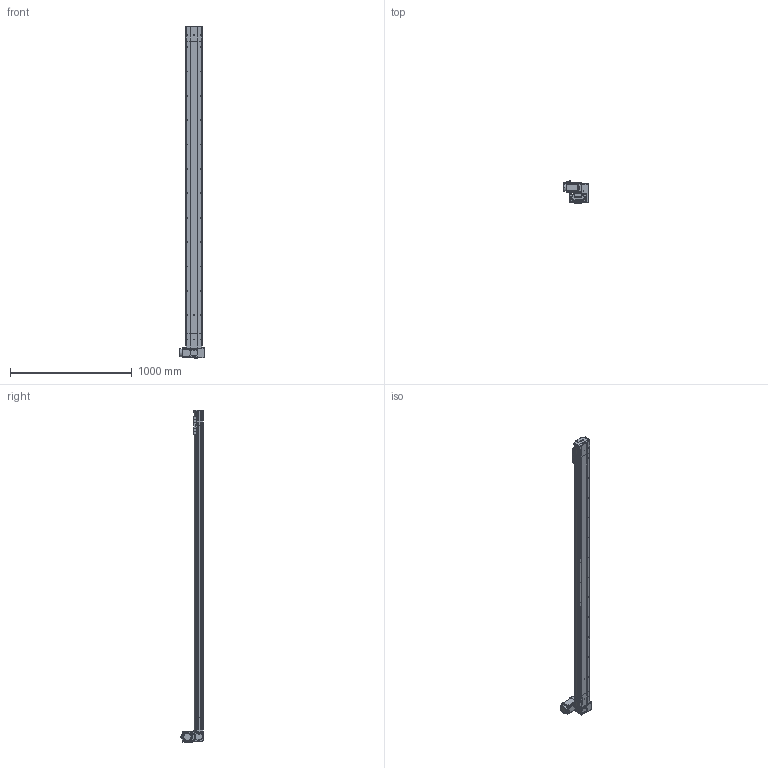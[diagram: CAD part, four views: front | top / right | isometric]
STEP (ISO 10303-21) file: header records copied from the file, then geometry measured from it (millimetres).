
FILE_DESCRIPTION (( 'STEP AP214' ), '1' );
FILE_NAME ('D14 TBH LT S2400.STEP', '2010-06-29T14:30:27', ( 'Conseil Régional Haute-Normandie' ), ( 'Conseil Régional Haute-Normandie' ), 'SwSTEP 2.0', 'SolidWorks 2010', '' );
FILE_SCHEMA (( 'AUTOMOTIVE_DESIGN' ));
Length unit declared in the file: millimetre
Products named in the file (39): poulie head_Default; couvercle D14 head_Default; couroie 2_Default; codeur 90BLDC100-640; Conecteur2_Default; chariot D14B_Default; Cache arbre_Default; Cache_Default; Plaque racord D14_Default; Cvis M5 L70_Default; avant 90BLDC100A-640; Moteur motionking 90BLDC100A-640; renvoi LH_Default; guide D14; Chariot D14; corps 90BLDC100A-640; vis M5 L12_Default; Conecteur_Default; Vis M5 L16-2_Default; vis M5 L5_Default; Arbre+rail tail D14; vis M5 L16_Default; corp head D14_Default; D14 TB H LT_Default; tete d''axe haut D14; plaque de  bout tail D14_Default; corpl tail D14_Default; Couroie_Default; poulie tail_Default; plaque de  bout head D14 LT_Default; D14 TBH LT S2400; Tail D14B_Default; couvercle D14 course L2400_Default; Arbre+rail head D14; vis M5 L8 90°_Default; couvercle D14_Default; Rail + couroie D14 Course 2400 ; corpl 2400_Default; D14 couroie L2400_Default
Assembly tree (68 placements, depth 4):
  D14 TBH LT S2400
    chariot D14B_Default
      Chariot D14
      vis M5 L12_Default  x4
      guide D14  x2
    D14 TB H LT_Default
      vis M5 L12_Default  x12
      Cache_Default  x2
      couroie 2_Default
      Cvis M5 L70_Default  x4
      couvercle D14 head_Default
      poulie head_Default
      renvoi LH_Default
      Arbre+rail head D14
      Vis M5 L16-2_Default  x4
      vis M5 L5_Default  x2
      Plaque racord D14_Default
      Moteur motionking 90BLDC100A-640
        corps 90BLDC100A-640
        avant 90BLDC100A-640
        codeur 90BLDC100-640
        Conecteur_Default
        Conecteur2_Default
      corp head D14_Default
      plaque de  bout head D14 LT_Default
      Cache arbre_Default
    Tail D14B_Default
      vis M5 L12_Default  x4
      Couroie_Default
      plaque de  bout tail D14_Default
      corpl tail D14_Default
      couvercle D14_Default
      poulie tail_Default
      vis M5 L8 90°_Default  x2
      tete d''axe haut D14
      Arbre+rail tail D14
      vis M5 L16_Default  x2
    D14 couroie L2400_Default
      Rail + couroie D14 Course 2400 
      couvercle D14 course L2400_Default
      corpl 2400_Default
Bounding box: 207.2 x 189.1 x 2725.75 mm (x, y, z)
Volume: 10339487.7 mm3; surface area: 3708046.3 mm2
Topology: 92 solids, 92 shells, 2725 faces, 6647 edges, 4290 vertices
Faces by surface type: plane 1613, cylinder 799, bspline 136, torus 89, cone 84, sphere 4
Entity records: 81980 total; most frequent: CARTESIAN_POINT 24001, ORIENTED_EDGE 10154, DIRECTION 10048, EDGE_CURVE 5077, AXIS2_PLACEMENT_3D 3351, LINE 3346, VECTOR 3346, VERTEX_POINT 3340
